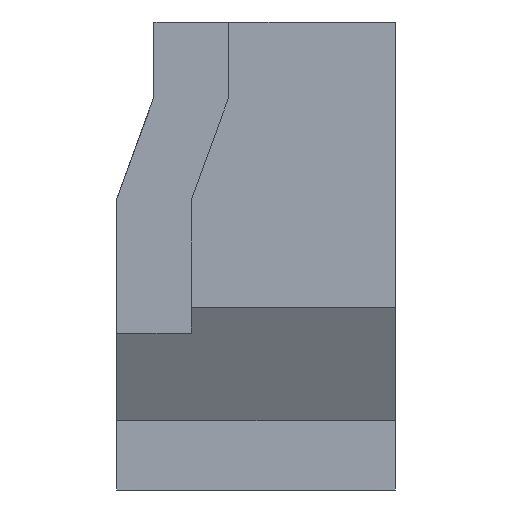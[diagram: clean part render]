
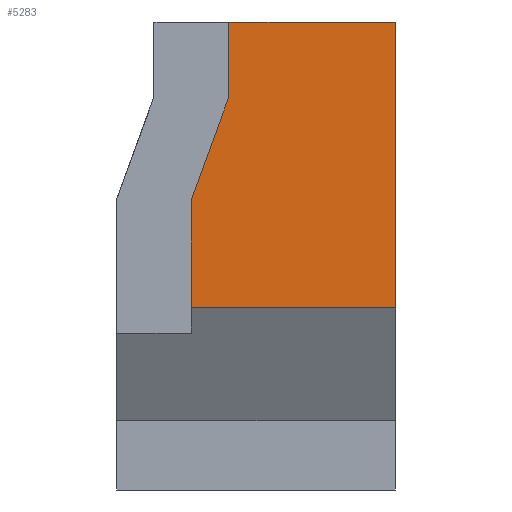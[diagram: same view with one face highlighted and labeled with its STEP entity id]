
A CAD part, front view. The second image highlights one B-rep face of the part: STEP entity #5283.
In plain terms, the highlighted planar face has unit normal (0, -1, 0).
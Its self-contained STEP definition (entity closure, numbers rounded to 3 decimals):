
#32 = PLANE('',#33);
#33 = AXIS2_PLACEMENT_3D('',#34,#35,#36);
#34 = CARTESIAN_POINT('',(15.,-190.,-0.1));
#35 = DIRECTION('',(1.,0.,-0.));
#36 = DIRECTION('',(0.,0.,1.));
#107 = VERTEX_POINT('',#108);
#108 = CARTESIAN_POINT('',(15.,-179.2,25.));
#121 = PLANE('',#122);
#122 = AXIS2_PLACEMENT_3D('',#123,#124,#125);
#123 = CARTESIAN_POINT('',(0.,-3.046,25.));
#124 = DIRECTION('',(0.,0.,1.));
#125 = DIRECTION('',(1.,0.,-0.));
#132 = EDGE_CURVE('',#133,#107,#135,.T.);
#133 = VERTEX_POINT('',#134);
#134 = CARTESIAN_POINT('',(15.,-179.2,9.762));
#135 = SURFACE_CURVE('',#136,(#140,#146),.PCURVE_S1.);
#136 = LINE('',#137,#138);
#137 = CARTESIAN_POINT('',(15.,-179.2,4.831));
#138 = VECTOR('',#139,1.);
#139 = DIRECTION('',(0.,-0.,1.));
#140 = PCURVE('',#32,#141);
#141 = DEFINITIONAL_REPRESENTATION('',(#142),#145);
#142 = B_SPLINE_CURVE_WITH_KNOTS('',1,(#143,#144),.UNSPECIFIED.,.F.,.F.,
  (2,2),(4.931,20.169),.PIECEWISE_BEZIER_KNOTS.);
#143 = CARTESIAN_POINT('',(9.862,-10.8));
#144 = CARTESIAN_POINT('',(25.1,-10.8));
#145 = ( GEOMETRIC_REPRESENTATION_CONTEXT(2) 
PARAMETRIC_REPRESENTATION_CONTEXT() REPRESENTATION_CONTEXT('2D SPACE',''
  ) );
#146 = PCURVE('',#147,#152);
#147 = PLANE('',#148);
#148 = AXIS2_PLACEMENT_3D('',#149,#150,#151);
#149 = CARTESIAN_POINT('',(-195.2,-179.2,9.762));
#150 = DIRECTION('',(0.,1.,0.));
#151 = DIRECTION('',(1.,0.,0.));
#152 = DEFINITIONAL_REPRESENTATION('',(#153),#156);
#153 = B_SPLINE_CURVE_WITH_KNOTS('',1,(#154,#155),.UNSPECIFIED.,.F.,.F.,
  (2,2),(4.931,20.169),.PIECEWISE_BEZIER_KNOTS.);
#154 = CARTESIAN_POINT('',(210.2,0.));
#155 = CARTESIAN_POINT('',(210.2,-15.238));
#156 = ( GEOMETRIC_REPRESENTATION_CONTEXT(2) 
PARAMETRIC_REPRESENTATION_CONTEXT() REPRESENTATION_CONTEXT('2D SPACE',''
  ) );
#173 = PLANE('',#174);
#174 = AXIS2_PLACEMENT_3D('',#175,#176,#177);
#175 = CARTESIAN_POINT('',(0.,-177.45,6.731));
#176 = DIRECTION('',(0.,-0.866,-0.5));
#177 = DIRECTION('',(1.,0.,0.));
#5188 = EDGE_CURVE('',#5189,#133,#5191,.T.);
#5189 = VERTEX_POINT('',#5190);
#5190 = CARTESIAN_POINT('',(4.1,-179.2,9.762));
#5191 = SURFACE_CURVE('',#5192,(#5196,#5203),.PCURVE_S1.);
#5192 = LINE('',#5193,#5194);
#5193 = CARTESIAN_POINT('',(-195.2,-179.2,9.762));
#5194 = VECTOR('',#5195,1.);
#5195 = DIRECTION('',(1.,0.,0.));
#5196 = PCURVE('',#173,#5197);
#5197 = DEFINITIONAL_REPRESENTATION('',(#5198),#5202);
#5198 = LINE('',#5199,#5200);
#5199 = CARTESIAN_POINT('',(-195.2,3.5));
#5200 = VECTOR('',#5201,1.);
#5201 = DIRECTION('',(1.,0.));
#5202 = ( GEOMETRIC_REPRESENTATION_CONTEXT(2) 
PARAMETRIC_REPRESENTATION_CONTEXT() REPRESENTATION_CONTEXT('2D SPACE',''
  ) );
#5203 = PCURVE('',#147,#5204);
#5204 = DEFINITIONAL_REPRESENTATION('',(#5205),#5209);
#5205 = LINE('',#5206,#5207);
#5206 = CARTESIAN_POINT('',(0.,0.));
#5207 = VECTOR('',#5208,1.);
#5208 = DIRECTION('',(1.,0.));
#5209 = ( GEOMETRIC_REPRESENTATION_CONTEXT(2) 
PARAMETRIC_REPRESENTATION_CONTEXT() REPRESENTATION_CONTEXT('2D SPACE',''
  ) );
#5226 = PLANE('',#5227);
#5227 = AXIS2_PLACEMENT_3D('',#5228,#5229,#5230);
#5228 = CARTESIAN_POINT('',(4.1,-178.4,8.));
#5229 = DIRECTION('',(-1.,0.,0.));
#5230 = DIRECTION('',(0.,-1.,0.));
#5283 = ADVANCED_FACE('',(#5284),#147,.F.);
#5284 = FACE_BOUND('',#5285,.F.);
#5285 = EDGE_LOOP('',(#5286,#5314,#5340,#5361,#5362,#5363));
#5286 = ORIENTED_EDGE('',*,*,#5287,.T.);
#5287 = EDGE_CURVE('',#5288,#5290,#5292,.T.);
#5288 = VERTEX_POINT('',#5289);
#5289 = CARTESIAN_POINT('',(4.1,-179.2,15.5));
#5290 = VERTEX_POINT('',#5291);
#5291 = CARTESIAN_POINT('',(6.1,-179.2,21.));
#5292 = SURFACE_CURVE('',#5293,(#5297,#5303),.PCURVE_S1.);
#5293 = LINE('',#5294,#5295);
#5294 = CARTESIAN_POINT('',(-7.459,-179.2,-16.288));
#5295 = VECTOR('',#5296,1.);
#5296 = DIRECTION('',(0.342,-0.,0.94));
#5297 = PCURVE('',#147,#5298);
#5298 = DEFINITIONAL_REPRESENTATION('',(#5299),#5302);
#5299 = B_SPLINE_CURVE_WITH_KNOTS('',1,(#5300,#5301),.UNSPECIFIED.,.F.,
  .F.,(2,2),(33.825,39.677),.PIECEWISE_BEZIER_KNOTS.);
#5300 = CARTESIAN_POINT('',(199.3,-5.738));
#5301 = CARTESIAN_POINT('',(201.3,-11.238));
#5302 = ( GEOMETRIC_REPRESENTATION_CONTEXT(2) 
PARAMETRIC_REPRESENTATION_CONTEXT() REPRESENTATION_CONTEXT('2D SPACE',''
  ) );
#5303 = PCURVE('',#5304,#5309);
#5304 = PLANE('',#5305);
#5305 = AXIS2_PLACEMENT_3D('',#5306,#5307,#5308);
#5306 = CARTESIAN_POINT('',(6.1,-178.4,21.));
#5307 = DIRECTION('',(-0.94,0.,0.342));
#5308 = DIRECTION('',(0.,-1.,0.));
#5309 = DEFINITIONAL_REPRESENTATION('',(#5310),#5313);
#5310 = B_SPLINE_CURVE_WITH_KNOTS('',1,(#5311,#5312),.UNSPECIFIED.,.F.,
  .F.,(2,2),(33.825,39.677),.PIECEWISE_BEZIER_KNOTS.);
#5311 = CARTESIAN_POINT('',(0.8,-5.852));
#5312 = CARTESIAN_POINT('',(0.8,0.));
#5313 = ( GEOMETRIC_REPRESENTATION_CONTEXT(2) 
PARAMETRIC_REPRESENTATION_CONTEXT() REPRESENTATION_CONTEXT('2D SPACE',''
  ) );
#5314 = ORIENTED_EDGE('',*,*,#5315,.T.);
#5315 = EDGE_CURVE('',#5290,#5316,#5318,.T.);
#5316 = VERTEX_POINT('',#5317);
#5317 = CARTESIAN_POINT('',(6.1,-179.2,25.));
#5318 = SURFACE_CURVE('',#5319,(#5323,#5329),.PCURVE_S1.);
#5319 = LINE('',#5320,#5321);
#5320 = CARTESIAN_POINT('',(6.1,-179.2,23.881));
#5321 = VECTOR('',#5322,1.);
#5322 = DIRECTION('',(0.,-0.,1.));
#5323 = PCURVE('',#147,#5324);
#5324 = DEFINITIONAL_REPRESENTATION('',(#5325),#5328);
#5325 = B_SPLINE_CURVE_WITH_KNOTS('',1,(#5326,#5327),.UNSPECIFIED.,.F.,
  .F.,(2,2),(-2.881,1.119),.PIECEWISE_BEZIER_KNOTS.);
#5326 = CARTESIAN_POINT('',(201.3,-11.238));
#5327 = CARTESIAN_POINT('',(201.3,-15.238));
#5328 = ( GEOMETRIC_REPRESENTATION_CONTEXT(2) 
PARAMETRIC_REPRESENTATION_CONTEXT() REPRESENTATION_CONTEXT('2D SPACE',''
  ) );
#5329 = PCURVE('',#5330,#5335);
#5330 = PLANE('',#5331);
#5331 = AXIS2_PLACEMENT_3D('',#5332,#5333,#5334);
#5332 = CARTESIAN_POINT('',(6.1,-178.4,38.));
#5333 = DIRECTION('',(-1.,0.,0.));
#5334 = DIRECTION('',(0.,-1.,0.));
#5335 = DEFINITIONAL_REPRESENTATION('',(#5336),#5339);
#5336 = B_SPLINE_CURVE_WITH_KNOTS('',1,(#5337,#5338),.UNSPECIFIED.,.F.,
  .F.,(2,2),(-2.881,1.119),.PIECEWISE_BEZIER_KNOTS.);
#5337 = CARTESIAN_POINT('',(0.8,-17.));
#5338 = CARTESIAN_POINT('',(0.8,-13.));
#5339 = ( GEOMETRIC_REPRESENTATION_CONTEXT(2) 
PARAMETRIC_REPRESENTATION_CONTEXT() REPRESENTATION_CONTEXT('2D SPACE',''
  ) );
#5340 = ORIENTED_EDGE('',*,*,#5341,.T.);
#5341 = EDGE_CURVE('',#5316,#107,#5342,.T.);
#5342 = SURFACE_CURVE('',#5343,(#5347,#5354),.PCURVE_S1.);
#5343 = LINE('',#5344,#5345);
#5344 = CARTESIAN_POINT('',(-195.2,-179.2,25.));
#5345 = VECTOR('',#5346,1.);
#5346 = DIRECTION('',(1.,0.,0.));
#5347 = PCURVE('',#147,#5348);
#5348 = DEFINITIONAL_REPRESENTATION('',(#5349),#5353);
#5349 = LINE('',#5350,#5351);
#5350 = CARTESIAN_POINT('',(0.,-15.238));
#5351 = VECTOR('',#5352,1.);
#5352 = DIRECTION('',(1.,0.));
#5353 = ( GEOMETRIC_REPRESENTATION_CONTEXT(2) 
PARAMETRIC_REPRESENTATION_CONTEXT() REPRESENTATION_CONTEXT('2D SPACE',''
  ) );
#5354 = PCURVE('',#121,#5355);
#5355 = DEFINITIONAL_REPRESENTATION('',(#5356),#5360);
#5356 = LINE('',#5357,#5358);
#5357 = CARTESIAN_POINT('',(-195.2,-176.154));
#5358 = VECTOR('',#5359,1.);
#5359 = DIRECTION('',(1.,0.));
#5360 = ( GEOMETRIC_REPRESENTATION_CONTEXT(2) 
PARAMETRIC_REPRESENTATION_CONTEXT() REPRESENTATION_CONTEXT('2D SPACE',''
  ) );
#5361 = ORIENTED_EDGE('',*,*,#132,.F.);
#5362 = ORIENTED_EDGE('',*,*,#5188,.F.);
#5363 = ORIENTED_EDGE('',*,*,#5364,.T.);
#5364 = EDGE_CURVE('',#5189,#5288,#5365,.T.);
#5365 = SURFACE_CURVE('',#5366,(#5370,#5376),.PCURVE_S1.);
#5366 = LINE('',#5367,#5368);
#5367 = CARTESIAN_POINT('',(4.1,-179.2,8.881));
#5368 = VECTOR('',#5369,1.);
#5369 = DIRECTION('',(0.,-0.,1.));
#5370 = PCURVE('',#147,#5371);
#5371 = DEFINITIONAL_REPRESENTATION('',(#5372),#5375);
#5372 = B_SPLINE_CURVE_WITH_KNOTS('',1,(#5373,#5374),.UNSPECIFIED.,.F.,
  .F.,(2,2),(0.881,6.619),.PIECEWISE_BEZIER_KNOTS.);
#5373 = CARTESIAN_POINT('',(199.3,0.));
#5374 = CARTESIAN_POINT('',(199.3,-5.738));
#5375 = ( GEOMETRIC_REPRESENTATION_CONTEXT(2) 
PARAMETRIC_REPRESENTATION_CONTEXT() REPRESENTATION_CONTEXT('2D SPACE',''
  ) );
#5376 = PCURVE('',#5226,#5377);
#5377 = DEFINITIONAL_REPRESENTATION('',(#5378),#5381);
#5378 = B_SPLINE_CURVE_WITH_KNOTS('',1,(#5379,#5380),.UNSPECIFIED.,.F.,
  .F.,(2,2),(0.881,6.619),.PIECEWISE_BEZIER_KNOTS.);
#5379 = CARTESIAN_POINT('',(0.8,1.762));
#5380 = CARTESIAN_POINT('',(0.8,7.5));
#5381 = ( GEOMETRIC_REPRESENTATION_CONTEXT(2) 
PARAMETRIC_REPRESENTATION_CONTEXT() REPRESENTATION_CONTEXT('2D SPACE',''
  ) );
